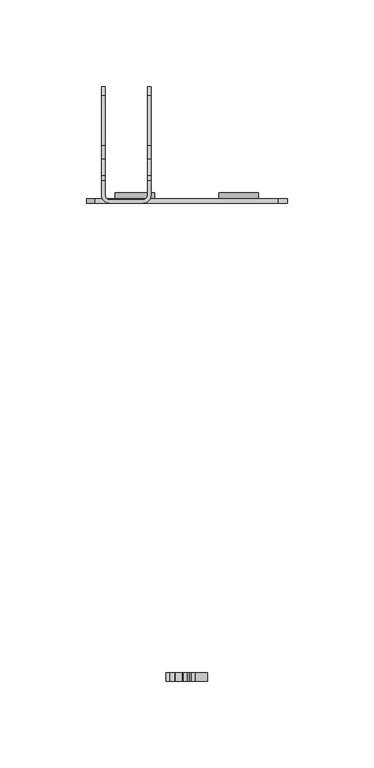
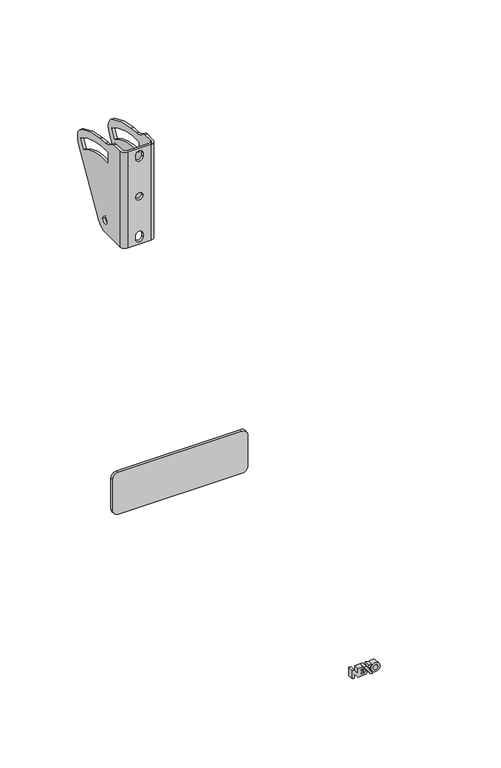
"""IFC4 building model written with IfcOpenShell, lengths in millimetres: proxy geometry, ePS10-WM02-WVM : ePS10-WM02-WVM."""

from ifc_helpers import new_model, si_unit, point, frame, frame_2d, origin, place, context, project, spatial, polyline, circle_curve, trimmed, segment, composite_curve, outline, extrude, source, transform, mapped, element, save
from ifc_brep_helpers import plane_surface, cylinder_surface, revolved_surface, advanced_brep


def generic_models_befa25e3(model_context):
    return source(origin(), model_context, "Body", "SolidModel", [
        advanced_brep(
        [(14.25, -87.7767512, 46.1064927), (12.25, -87.7767512, 46.1064927), (12.25, -90.3716849, 47.0), (14.25, -90.3902878, 47.0), (-12.25, -87.7767512, 46.1064927), (-14.25, -87.7767512, 46.1064927), (-14.25, -90.3716849, 47.0), (-12.25, -90.3902878, 47.0), (14.25, -78.1254974, 41.1889332), (12.25, -78.1254974, 41.1889332), (-12.25, -78.1254974, 41.1889332), (-14.25, -78.1254974, 41.1889332), (14.25, -70.2644375, 40.7606486), (12.25, -70.2644375, 40.7606486), (-12.25, -70.2644375, 40.7606486), (-14.25, -70.2644375, 40.7606486), (14.25, -41.518081, 31.4203912), (12.25, -41.518081, 31.4203912), (-12.25, -41.518081, 31.4203912), (-14.25, -41.518081, 31.4203912), (14.25, -36.3035006, 23.4663297), (12.25, -36.3035006, 23.4663297), (-12.25, -36.3035006, 23.4663297), (-14.25, -36.3035006, 23.4663297), (14.25, -37.6729327, 17.0148555), (12.25, -37.6729327, 17.0148555), (12.25, -36.3035006, 21.1548402), (14.25, -36.3035006, 21.1548402), (-12.25, -37.6729327, 17.0148555), (-14.25, -37.6729327, 17.0148555), (-14.25, -36.3035006, 21.1548402), (-12.25, -36.3035006, 21.1548402), (14.25, -67.9331802, -34.7955433), (12.25, -67.9331802, -34.7955433), (-12.25, -67.9331802, -34.7955433), (-14.25, -67.9331802, -34.7955433), (14.25, -77.0, -40.0), (12.25, -77.0, -40.0), (-12.25, -77.0, -40.0), (-14.25, -77.0, -40.0), (12.25, -80.0, -29.5), (14.25, -80.0, -29.5), (14.25, -74.0, -29.5), (12.25, -74.0, -29.5), (-14.25, -80.0, -29.5), (-12.25, -80.0, -29.5), (-12.25, -74.0, -29.5), (-14.25, -74.0, -29.5), (-14.25, -99.0, 47.0), (-9.75, -103.5, 47.0), (9.75, -103.5, 47.0), (14.25, -99.0, 47.0), (12.25, -99.0, 47.0), (9.75, -101.5, 47.0), (-9.75, -101.5, 47.0), (-12.25, -99.0, 47.0), (-12.25, -99.0, -40.0), (-9.75, -101.5, -40.0), (9.75, -101.5, -40.0), (12.25, -99.0, -40.0), (14.25, -99.0, -40.0), (9.75, -103.5, -40.0), (-9.75, -103.5, -40.0), (-14.25, -99.0, -40.0), (-3.1, -103.5, 41.6), (3.1, -103.5, 41.6), (3.1, -103.5, 38.5), (-3.1, -103.5, 38.5), (3.1, -103.5, -31.4906202), (3.1, -103.5, -34.5906202), (-3.1, -103.5, -34.5906202), (-3.1, -103.5, -31.4906202), (3.1, -103.5, 3.4898915), (-3.1, -103.5, 3.4898915), (14.25, -36.2397525, 22.278058), (14.25, -41.2927077, 23.7144233), (14.25, -45.8031363, 15.9021317), (14.25, -81.0, 25.3556682), (14.25, -81.0, 34.55), (12.25, -36.3035006, 22.278058), (12.25, -45.8031363, 15.9021317), (12.25, -41.2927077, 23.7144233), (12.25, -81.0, 34.55), (12.25, -81.0, 25.3556682), (3.1, -101.5, 41.6), (-3.1, -101.5, 41.6), (-3.1, -101.5, 38.5), (3.1, -101.5, 38.5), (3.1, -101.5, -34.5906202), (3.1, -101.5, -31.4906202), (-3.1, -101.5, -31.4906202), (-3.1, -101.5, -34.5906202), (-3.1, -101.5, 3.4898915), (3.1, -101.5, 3.4898915), (-12.25, -36.2397525, 22.278058), (-12.25, -41.2927077, 23.7144233), (-12.25, -45.8031363, 15.9021317), (-12.25, -81.0, 25.3556682), (-12.25, -81.0, 34.55), (-14.25, -36.3035006, 22.278058), (-14.25, -45.8031363, 15.9021317), (-14.25, -41.2927077, 23.7144233), (-14.25, -81.0, 34.55), (-14.25, -81.0, 25.3556682)],
        [
            (0, 1),
            (1, 2, circle_curve(frame((12.25, -90.3809864, 42.7581156), z_axis=(1.0, 0.0, 0.0), x_axis=(0.0, 1.0, 0.0)), 4.2418946)),
            (2, 3),
            (3, 0, circle_curve(frame((14.25, -90.3809864, 42.7581156), z_axis=(-1.0, 0.0, 0.0), x_axis=(0.0, 1.0, 0.0)), 4.2418946)),
            (4, 5),
            (5, 6, circle_curve(frame((-14.25, -90.3809864, 42.7581156), z_axis=(1.0, 0.0, 0.0), x_axis=(0.0, 1.0, 0.0)), 4.2418946)),
            (6, 7),
            (7, 4, circle_curve(frame((-12.25, -90.3809864, 42.7581156), z_axis=(-1.0, 0.0, 0.0), x_axis=(0.0, 1.0, 0.0)), 4.2418946)),
            (0, 8, circle_curve(frame((14.25, -76.3075404, 56.6864806), z_axis=(1.0, 0.0, 0.0), x_axis=(0.0, 1.0, 0.0)), 15.6038118)),
            (8, 9),
            (9, 1, circle_curve(frame((12.25, -76.3075404, 56.6864806), z_axis=(-1.0, 0.0, 0.0), x_axis=(0.0, 1.0, 0.0)), 15.6038118)),
            (4, 10, circle_curve(frame((-12.25, -76.3075404, 56.6864806), z_axis=(1.0, 0.0, 0.0), x_axis=(0.0, 1.0, 0.0)), 15.6038118)),
            (10, 11),
            (11, 5, circle_curve(frame((-14.25, -76.3075404, 56.6864806), z_axis=(-1.0, 0.0, 0.0), x_axis=(0.0, 1.0, 0.0)), 15.6038118)),
            (8, 12),
            (12, 13),
            (13, 9),
            (10, 14),
            (14, 15),
            (15, 11),
            (12, 16, circle_curve(frame((14.25, -78.2021031, -32.5751969), z_axis=(-1.0, 0.0, 0.0), x_axis=(0.0, 1.0, 0.0)), 73.7641699)),
            (16, 17),
            (17, 13, circle_curve(frame((12.25, -78.2021031, -32.5751969), z_axis=(1.0, 0.0, 0.0), x_axis=(0.0, 1.0, 0.0)), 73.7641699)),
            (14, 18, circle_curve(frame((-12.25, -78.2021031, -32.5751969), z_axis=(-1.0, 0.0, 0.0), x_axis=(0.0, 1.0, 0.0)), 73.7641699)),
            (18, 19),
            (19, 15, circle_curve(frame((-14.25, -78.2021031, -32.5751969), z_axis=(1.0, 0.0, 0.0), x_axis=(0.0, 1.0, 0.0)), 73.7641699)),
            (16, 20, circle_curve(frame((14.25, -46.7400712, 22.3105849), z_axis=(-1.0, 0.0, 0.0), x_axis=(0.0, 1.0, 0.0)), 10.5003691)),
            (20, 21),
            (21, 17, circle_curve(frame((12.25, -46.7400712, 22.3105849), z_axis=(1.0, 0.0, 0.0), x_axis=(0.0, 1.0, 0.0)), 10.5003691)),
            (18, 22, circle_curve(frame((-12.25, -46.7400712, 22.3105849), z_axis=(-1.0, 0.0, 0.0), x_axis=(0.0, 1.0, 0.0)), 10.5003691)),
            (22, 23),
            (23, 19, circle_curve(frame((-14.25, -46.7400712, 22.3105849), z_axis=(1.0, 0.0, 0.0), x_axis=(0.0, 1.0, 0.0)), 10.5003691)),
            (24, 25),
            (25, 26, circle_curve(frame((12.25, -46.7400712, 22.3105849), z_axis=(1.0, 0.0, 0.0), x_axis=(0.0, 1.0, 0.0)), 10.5003691)),
            (26, 27),
            (27, 24, circle_curve(frame((14.25, -46.7400712, 22.3105849), z_axis=(-1.0, 0.0, 0.0), x_axis=(0.0, 1.0, 0.0)), 10.5003691)),
            (28, 29),
            (29, 30, circle_curve(frame((-14.25, -46.7400712, 22.3105849), z_axis=(1.0, 0.0, 0.0), x_axis=(0.0, 1.0, 0.0)), 10.5003691)),
            (30, 31),
            (31, 28, circle_curve(frame((-12.25, -46.7400712, 22.3105849), z_axis=(-1.0, 0.0, 0.0), x_axis=(0.0, 1.0, 0.0)), 10.5003691)),
            (24, 32),
            (32, 33),
            (33, 25),
            (28, 34),
            (34, 35),
            (35, 29),
            (32, 36, circle_curve(frame((14.25, -77.0, -29.5), z_axis=(-1.0, 0.0, 0.0), x_axis=(0.0, 1.0, 0.0)), 10.5)),
            (36, 37),
            (37, 33, circle_curve(frame((12.25, -77.0, -29.5), z_axis=(1.0, 0.0, 0.0), x_axis=(0.0, 1.0, 0.0)), 10.5)),
            (34, 38, circle_curve(frame((-12.25, -77.0, -29.5), z_axis=(-1.0, 0.0, 0.0), x_axis=(0.0, 1.0, 0.0)), 10.5)),
            (38, 39),
            (39, 35, circle_curve(frame((-14.25, -77.0, -29.5), z_axis=(1.0, 0.0, 0.0), x_axis=(0.0, 1.0, 0.0)), 10.5)),
            (40, 41),
            (41, 42, circle_curve(frame((14.25, -77.0, -29.5), z_axis=(1.0, 0.0, 0.0), x_axis=(0.0, 1.0, 0.0)), 3.0)),
            (42, 43),
            (43, 40, circle_curve(frame((12.25, -77.0, -29.5), z_axis=(-1.0, 0.0, 0.0), x_axis=(0.0, 1.0, 0.0)), 3.0)),
            (44, 45),
            (45, 46, circle_curve(frame((-12.25, -77.0, -29.5), z_axis=(1.0, 0.0, 0.0), x_axis=(0.0, 1.0, 0.0)), 3.0)),
            (46, 47),
            (47, 44, circle_curve(frame((-14.25, -77.0, -29.5), z_axis=(-1.0, 0.0, 0.0), x_axis=(0.0, 1.0, 0.0)), 3.0)),
            (40, 43, circle_curve(frame((12.25, -77.0, -29.5), z_axis=(-1.0, 0.0, 0.0), x_axis=(0.0, 1.0, 0.0)), 3.0)),
            (42, 41, circle_curve(frame((14.25, -77.0, -29.5), z_axis=(1.0, 0.0, 0.0), x_axis=(0.0, 1.0, 0.0)), 3.0)),
            (44, 47, circle_curve(frame((-14.25, -77.0, -29.5), z_axis=(-1.0, 0.0, 0.0), x_axis=(0.0, 1.0, 0.0)), 3.0)),
            (46, 45, circle_curve(frame((-12.25, -77.0, -29.5), z_axis=(1.0, 0.0, 0.0), x_axis=(0.0, 1.0, 0.0)), 3.0)),
            (48, 49, circle_curve(frame((-9.75, -99.0, 47.0), z_axis=(0.0, 0.0, 1.0), x_axis=(1.0, 0.0, 0.0)), 4.5)),
            (49, 50),
            (50, 51, circle_curve(frame((9.75, -99.0, 47.0), z_axis=(0.0, 0.0, 1.0), x_axis=(1.0, 0.0, 0.0)), 4.5)),
            (51, 3),
            (2, 52),
            (52, 53, circle_curve(frame((9.75, -99.0, 47.0), z_axis=(0.0, 0.0, -1.0), x_axis=(1.0, 0.0, 0.0)), 2.5)),
            (53, 54),
            (54, 55, circle_curve(frame((-9.75, -99.0, 47.0), z_axis=(0.0, 0.0, -1.0), x_axis=(1.0, 0.0, 0.0)), 2.5)),
            (55, 7),
            (6, 48),
            (56, 57, circle_curve(frame((-9.75, -99.0, -40.0), z_axis=(0.0, 0.0, 1.0), x_axis=(1.0, 0.0, 0.0)), 2.5)),
            (57, 58),
            (58, 59, circle_curve(frame((9.75, -99.0, -40.0), z_axis=(0.0, 0.0, 1.0), x_axis=(1.0, 0.0, 0.0)), 2.5)),
            (59, 37),
            (36, 60),
            (60, 61, circle_curve(frame((9.75, -99.0, -40.0), z_axis=(0.0, 0.0, -1.0), x_axis=(1.0, 0.0, 0.0)), 4.5)),
            (61, 62),
            (62, 63, circle_curve(frame((-9.75, -99.0, -40.0), z_axis=(0.0, 0.0, -1.0), x_axis=(1.0, 0.0, 0.0)), 4.5)),
            (63, 39),
            (38, 56),
            (49, 62),
            (61, 50),
            (64, 65, circle_curve(frame((0.0, -103.5, 41.6), z_axis=(0.0, 1.0, 0.0), x_axis=(1.0, 0.0, 0.0)), 3.1)),
            (65, 66),
            (66, 67, circle_curve(frame((0.0, -103.5, 38.5), z_axis=(0.0, 1.0, 0.0), x_axis=(1.0, 0.0, 0.0)), 3.1)),
            (67, 64),
            (68, 69),
            (69, 70, circle_curve(frame((0.0, -103.5, -34.5906202), z_axis=(0.0, 1.0, 0.0), x_axis=(1.0, 0.0, 0.0)), 3.1)),
            (70, 71),
            (71, 68, circle_curve(frame((0.0, -103.5, -31.4906202), z_axis=(0.0, 1.0, 0.0), x_axis=(1.0, 0.0, 0.0)), 3.1)),
            (72, 73, circle_curve(frame((0.0, -103.5, 3.4898915), z_axis=(0.0, 1.0, 0.0), x_axis=(1.0, 0.0, 0.0)), 3.1)),
            (73, 72, circle_curve(frame((0.0, -103.5, 3.4898915), z_axis=(0.0, 1.0, 0.0), x_axis=(1.0, 0.0, 0.0)), 3.1)),
            (51, 60),
            (27, 74),
            (74, 20),
            (75, 76),
            (76, 77, circle_curve(frame((14.25, -77.0093909, -30.0349635), z_axis=(1.0, 0.0, 0.0), x_axis=(0.0, 1.0, 0.0)), 55.5341971)),
            (77, 78),
            (78, 75, circle_curve(frame((14.25, -77.6772538, -31.4457619), z_axis=(-1.0, 0.0, 0.0), x_axis=(0.0, 1.0, 0.0)), 66.0793555)),
            (26, 79),
            (79, 21),
            (59, 52),
            (80, 81),
            (81, 82, circle_curve(frame((12.25, -77.6772538, -31.4457619), z_axis=(1.0, 0.0, 0.0), x_axis=(0.0, 1.0, 0.0)), 66.0793555)),
            (82, 83),
            (83, 80, circle_curve(frame((12.25, -77.0093909, -30.0349635), z_axis=(-1.0, 0.0, 0.0), x_axis=(0.0, 1.0, 0.0)), 55.5341971)),
            (53, 58),
            (57, 54),
            (84, 85, circle_curve(frame((0.0, -101.5, 41.6), z_axis=(0.0, -1.0, 0.0), x_axis=(1.0, 0.0, 0.0)), 3.1)),
            (85, 86),
            (86, 87, circle_curve(frame((0.0, -101.5, 38.5), z_axis=(0.0, -1.0, 0.0), x_axis=(1.0, 0.0, 0.0)), 3.1)),
            (87, 84),
            (88, 89),
            (89, 90, circle_curve(frame((0.0, -101.5, -31.4906202), z_axis=(0.0, -1.0, 0.0), x_axis=(1.0, 0.0, 0.0)), 3.1)),
            (90, 91),
            (91, 88, circle_curve(frame((0.0, -101.5, -34.5906202), z_axis=(0.0, -1.0, 0.0), x_axis=(1.0, 0.0, 0.0)), 3.1)),
            (92, 93, circle_curve(frame((0.0, -101.5, 3.4898915), z_axis=(0.0, -1.0, 0.0), x_axis=(1.0, 0.0, 0.0)), 3.1)),
            (93, 92, circle_curve(frame((0.0, -101.5, 3.4898915), z_axis=(0.0, -1.0, 0.0), x_axis=(1.0, 0.0, 0.0)), 3.1)),
            (55, 56),
            (31, 94),
            (94, 22),
            (95, 96),
            (96, 97, circle_curve(frame((-12.25, -77.0093909, -30.0349635), z_axis=(1.0, 0.0, 0.0), x_axis=(0.0, 1.0, 0.0)), 55.5341971)),
            (97, 98),
            (98, 95, circle_curve(frame((-12.25, -77.6772538, -31.4457619), z_axis=(-1.0, 0.0, 0.0), x_axis=(0.0, 1.0, 0.0)), 66.0793555)),
            (30, 99),
            (99, 23),
            (63, 48),
            (100, 101),
            (101, 102, circle_curve(frame((-14.25, -77.6772538, -31.4457619), z_axis=(1.0, 0.0, 0.0), x_axis=(0.0, 1.0, 0.0)), 66.0793555)),
            (102, 103),
            (103, 100, circle_curve(frame((-14.25, -77.0093909, -30.0349635), z_axis=(-1.0, 0.0, 0.0), x_axis=(0.0, 1.0, 0.0)), 55.5341971)),
            (84, 65),
            (64, 85),
            (67, 86),
            (66, 87),
            (88, 69),
            (68, 89),
            (71, 90),
            (70, 91),
            (92, 73),
            (72, 93),
            (80, 76),
            (75, 81),
            (100, 96),
            (95, 101),
            (78, 82),
            (98, 102),
            (77, 83),
            (97, 103),
        ],
        [
            cylinder_surface(frame((-20.0, -90.3809864, 42.7581156), z_axis=(-1.0, 0.0, 0.0), x_axis=(0.0, 1.0, 0.0)), 4.2418946),
            revolved_surface(polyline([(14.25, -60.70372859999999, 56.6864806), (12.25, -60.70372859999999, 56.6864806)]), (-20.0, -76.3075404, 56.6864806), (1.0, 0.0, 0.0)),
            revolved_surface(polyline([(-12.25, -60.70372859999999, 56.6864806), (-14.25, -60.70372859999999, 56.6864806)]), (-20.0, -76.3075404, 56.6864806), (1.0, 0.0, 0.0)),
            plane_surface(frame((20.0, -78.1254974, 41.1889332), z_axis=(0.0, 0.05440111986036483, 0.9985191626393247), x_axis=(-1.0, 0.0, 0.0))),
            cylinder_surface(frame((-20.0, -78.2021031, -32.5751969), z_axis=(-1.0, 0.0, 0.0), x_axis=(0.0, 1.0, 0.0)), 73.7641699),
            cylinder_surface(frame((-20.0, -46.7400712, 22.3105849), z_axis=(-1.0, 0.0, 0.0), x_axis=(0.0, 1.0, 0.0)), 10.5003691),
            plane_surface(frame((20.0, -37.6729327, 17.0148555), z_axis=(0.0, 0.8635066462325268, -0.504337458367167), x_axis=(-1.0, 0.0, 0.0))),
            cylinder_surface(frame((-20.0, -77.0, -29.5), z_axis=(-1.0, 0.0, 0.0), x_axis=(0.0, 1.0, 0.0)), 10.5),
            revolved_surface(polyline([(14.25, -74.0, -29.5), (12.25, -74.0, -29.5)]), (0.0, -77.0, -29.5), (1.0, 0.0, 0.0)),
            revolved_surface(polyline([(-12.25, -74.0, -29.5), (-14.25, -74.0, -29.5)]), (0.0, -77.0, -29.5), (1.0, 0.0, 0.0)),
            plane_surface(frame((-5.25, -99.0, 47.0), z_axis=(0.0, 0.0, 1.0), x_axis=(0.0, 1.0, 0.0))),
            plane_surface(frame((-5.25, -99.0, -40.0), z_axis=(0.0, 0.0, -1.0), x_axis=(0.0, -1.0, 0.0))),
            plane_surface(frame((-9.75, -103.5, 47.0), z_axis=(0.0, -1.0, 0.0), x_axis=(0.0, 0.0, -1.0))),
            plane_surface(frame((14.25, -99.0, 47.0), z_axis=(1.0, 0.0, 0.0), x_axis=(0.0, 0.0, -1.0))),
            plane_surface(frame((14.25, -36.3035006, 47.0), z_axis=(0.0, 1.0, 0.0), x_axis=(0.0, 0.0, -1.0))),
            plane_surface(frame((12.25, -36.3035006, 47.0), z_axis=(-1.0, 0.0, 0.0), x_axis=(0.0, 0.0, -1.0))),
            plane_surface(frame((9.75, -101.5, 47.0), z_axis=(0.0, 1.0, 0.0), x_axis=(0.0, 0.0, -1.0))),
            plane_surface(frame((-12.25, -99.0, 47.0), z_axis=(1.0, 0.0, 0.0), x_axis=(0.0, 0.0, -1.0))),
            plane_surface(frame((-12.25, -36.3035006, 47.0), z_axis=(0.0, 1.0, 0.0), x_axis=(0.0, 0.0, -1.0))),
            plane_surface(frame((-14.25, -36.3035006, 47.0), z_axis=(-1.0, 0.0, 0.0), x_axis=(0.0, 0.0, -1.0))),
            revolved_surface(polyline([(3.1, -103.5, 41.6), (3.1, -101.5, 41.6)]), (0.0, 0.0, 41.6), (0.0, -1.0, 0.0)),
            plane_surface(frame((-3.1, -103.5, 41.6), z_axis=(1.0, 0.0, 0.0), x_axis=(0.0, 1.0, 0.0))),
            revolved_surface(polyline([(3.1, -103.5, 38.5), (3.1, -101.5, 38.5)]), (0.0, 0.0, 38.5), (0.0, -1.0, 0.0)),
            plane_surface(frame((3.1, -103.5, 38.5), z_axis=(-1.0, 0.0, 0.0), x_axis=(0.0, 1.0, 0.0))),
            plane_surface(frame((3.1, -103.5, -34.5906202), z_axis=(-1.0, 0.0, 0.0), x_axis=(0.0, 1.0, 0.0))),
            revolved_surface(polyline([(3.1, -103.5, -31.4906202), (3.1, -101.5, -31.4906202)]), (0.0, 0.0, -31.4906202), (0.0, -1.0, 0.0)),
            plane_surface(frame((-3.1, -103.5, -31.4906202), z_axis=(1.0, 0.0, 0.0), x_axis=(0.0, 1.0, 0.0))),
            revolved_surface(polyline([(3.1, -103.5, -34.5906202), (3.1, -101.5, -34.5906202)]), (0.0, 0.0, -34.5906202), (0.0, -1.0, 0.0)),
            revolved_surface(polyline([(3.1, -103.5, 3.4898915), (3.1, -101.5, 3.4898915)]), (0.0, 0.0, 3.4898915), (0.0, -1.0, 0.0)),
            cylinder_surface(frame((-9.75, -99.0, -40.0), z_axis=(0.0, 0.0, 1.0), x_axis=(1.0, 0.0, 0.0)), 4.5),
            cylinder_surface(frame((9.75, -99.0, -40.0), z_axis=(0.0, 0.0, 1.0), x_axis=(1.0, 0.0, 0.0)), 4.5),
            revolved_surface(polyline([(12.25, -99.0, -40.0), (12.25, -99.0, 47.0)]), (9.75, -99.0, -40.0), (0.0, 0.0, -1.0)),
            revolved_surface(polyline([(-7.25, -99.0, -40.0), (-7.25, -99.0, 47.0)]), (-9.75, -99.0, -40.0), (0.0, 0.0, -1.0)),
            plane_surface(frame((20.0, -45.8031363, 15.9021317), z_axis=(0.0, -0.8660254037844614, 0.499999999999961), x_axis=(-1.0, 0.0, 0.0))),
            revolved_surface(polyline([(14.25, -11.597898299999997, -31.4457619), (12.25, -11.597898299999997, -31.4457619)]), (0.0, -77.6772538, -31.4457619), (1.0, 0.0, 0.0)),
            revolved_surface(polyline([(-12.25, -11.597898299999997, -31.4457619), (-14.25, -11.597898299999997, -31.4457619)]), (0.0, -77.6772538, -31.4457619), (1.0, 0.0, 0.0)),
            plane_surface(frame((20.0, -81.0, 34.55), z_axis=(0.0, 1.0, 0.0), x_axis=(-1.0, 0.0, 0.0))),
            cylinder_surface(frame((0.0, -77.0093909, -30.0349635), z_axis=(-1.0, 0.0, 0.0), x_axis=(0.0, 1.0, 0.0)), 55.5341971),
        ],
        [
            (0, [[1, 2, 3, 4]]),
            (0, [[5, 6, 7, 8]]),
            (1, [[-1, 9, 10, 11]]),
            (2, [[-5, 12, 13, 14]]),
            (3, [[-10, 15, 16, 17]]),
            (3, [[-13, 18, 19, 20]]),
            (4, [[-16, 21, 22, 23]]),
            (4, [[-19, 24, 25, 26]]),
            (5, [[-22, 27, 28, 29]]),
            (5, [[-25, 30, 31, 32]]),
            (5, [[33, 34, 35, 36]]),
            (5, [[37, 38, 39, 40]]),
            (6, [[-33, 41, 42, 43]]),
            (6, [[-37, 44, 45, 46]]),
            (7, [[-42, 47, 48, 49]]),
            (7, [[-45, 50, 51, 52]]),
            (8, [[53, 54, 55, 56]]),
            (9, [[57, 58, 59, 60]]),
            (8, [[-53, 61, -55, 62]]),
            (9, [[-57, 63, -59, 64]]),
            (10, [[65, 66, 67, 68, -3, 69, 70, 71, 72, 73, -7, 74]]),
            (11, [[75, 76, 77, 78, -48, 79, 80, 81, 82, 83, -51, 84]]),
            (12, [[-66, 85, -81, 86], [87, 88, 89, 90], [91, 92, 93, 94], [95, 96]]),
            (13, [[97, -79, -47, -41, -36, 98, 99, -27, -21, -15, -9, -4, -68], [-54, -62], [100, 101, 102, 103]]),
            (14, [[-98, -35, 104, 105, -28, -99]]),
            (15, [[106, -69, -2, -11, -17, -23, -29, -105, -104, -34, -43, -49, -78], [-56, -61], [107, 108, 109, 110]]),
            (16, [[-71, 111, -76, 112], [113, 114, 115, 116], [117, 118, 119, 120], [121, 122]]),
            (17, [[123, -84, -50, -44, -40, 124, 125, -30, -24, -18, -12, -8, -73], [-58, -64], [126, 127, 128, 129]]),
            (18, [[-124, -39, 130, 131, -31, -125]]),
            (19, [[132, -74, -6, -14, -20, -26, -32, -131, -130, -38, -46, -52, -83], [-60, -63], [133, 134, 135, 136]]),
            (20, [[137, -87, 138, -113]]),
            (21, [[-138, -90, 139, -114]]),
            (22, [[-139, -89, 140, -115]]),
            (23, [[-137, -116, -140, -88]]),
            (24, [[141, -91, 142, -117]]),
            (25, [[-142, -94, 143, -118]]),
            (26, [[-143, -93, 144, -119]]),
            (27, [[-141, -120, -144, -92]]),
            (28, [[145, -95, 146, -121]]),
            (28, [[-145, -122, -146, -96]]),
            (29, [[-65, -132, -82, -85]]),
            (30, [[-67, -86, -80, -97]]),
            (31, [[-70, -106, -77, -111]]),
            (32, [[-72, -112, -75, -123]]),
            (33, [[147, -100, 148, -107]]),
            (33, [[149, -126, 150, -133]]),
            (34, [[-148, -103, 151, -108]]),
            (35, [[-150, -129, 152, -134]]),
            (36, [[-151, -102, 153, -109]]),
            (36, [[-152, -128, 154, -135]]),
            (37, [[-147, -110, -153, -101]]),
            (37, [[-149, -136, -154, -127]]),
        ],
    ),
        extrude(outline(composite_curve([segment(trimmed(circle_curve(frame_2d((-271.2638511, 43.0749632)), 3.9406238), [point((-271.2638511, 39.1343393))], [point((-271.2638511, 47.015587))], False, "CARTESIAN"), True, "CONTINUOUS"), segment(trimmed(circle_curve(frame_2d((-271.2638511, 43.0749632)), 3.9406238), [point((-271.2638511, 47.015587))], [point((-271.2638511, 39.1343393))], False, "CARTESIAN"), True, "CONTINUOUS")], self_intersect=False), holes=[composite_curve([segment(trimmed(circle_curve(frame_2d((-271.2638511, 43.0749632)), 2.0681078), [point((-271.2638511, 41.0068554))], [point((-271.2638511, 45.1430709))], True, "CARTESIAN"), True, "CONTINUOUS"), segment(trimmed(circle_curve(frame_2d((-271.2638511, 43.0749632)), 2.0681078), [point((-271.2638511, 45.1430709))], [point((-271.2638511, 41.0068554))], True, "CARTESIAN"), True, "CONTINUOUS")], self_intersect=False)]), frame((0.0, -379.5947355, 0.0), z_axis=(0.0, 1.0, 0.0), x_axis=(0.0, 0.0, 1.0)), (0.0, 0.0, 1.0), 5.0),
        extrude(outline(polyline([(-267.5930131, 23.0635897), (-274.8727802, 23.0635897), (-274.8727802, 24.9559569), (-270.7074499, 24.9559569), (-274.8727802, 27.7310539), (-274.8727802, 34.5819636), (-272.997809, 35.9005359), (-271.3982756, 34.8371588), (-273.2701157, 33.4676162), (-273.2701157, 30.4339869), (-272.0158284, 30.4339869), (-272.0158284, 32.7170997), (-270.4130981, 32.7170997), (-270.4130981, 30.4339869), (-269.1965949, 30.4339869), (-269.1965949, 32.8410616), (-268.3965949, 32.8410616), (-267.5938646, 32.3074028), (-267.5938646, 28.0390268), (-272.0439207, 28.0293352), (-267.5930131, 25.090069), (-267.5930131, 23.0635897)])), frame((0.0, -379.5947355, 0.0), z_axis=(0.0, 1.0, 0.0), x_axis=(0.0, 0.0, 1.0)), (0.0, 0.0, 1.0), 5.0),
        extrude(outline(polyline([(-267.5930131, 32.9487179), (-275.83396, 38.4273371), (-275.83396, 40.6205398), (-267.5930131, 35.1419206), (-267.5930131, 32.9487179)])), frame((0.0, -379.5947355, 0.0), z_axis=(0.0, 1.0, 0.0), x_axis=(0.0, 0.0, 1.0)), (0.0, 0.0, 1.0), 5.0),
        extrude(outline(polyline([(-267.5930131, 39.689352), (-267.5930131, 37.3625614), (-268.8609701, 36.6147671), (-270.491864, 37.6989929), (-267.5930131, 39.689352)])), frame((0.0, -379.5947355, 0.0), z_axis=(0.0, 1.0, 0.0), x_axis=(0.0, 0.0, 1.0)), (0.0, 0.0, 1.0), 5.0),
        extrude(outline(composite_curve([segment(trimmed(circle_curve(frame_2d((-259.53396, 4.9999424)), 11.4515227), [point((-259.53396, 16.4514651))], [point((-259.53396, -6.4515802))], False, "CARTESIAN"), True, "CONTINUOUS"), segment(trimmed(circle_curve(frame_2d((-259.53396, 4.9999424)), 11.4515227), [point((-259.53396, -6.4515802))], [point((-259.53396, 16.4514651))], False, "CARTESIAN"), True, "CONTINUOUS")], self_intersect=False), holes=[composite_curve([segment(trimmed(circle_curve(frame_2d((-259.53396, 4.9999424)), 5.0), [point((-259.53396, 9.9999424))], [point((-259.53396, -5.76e-05))], True, "CARTESIAN"), True, "CONTINUOUS"), segment(trimmed(circle_curve(frame_2d((-259.53396, 4.9999424)), 5.0), [point((-259.53396, -5.76e-05))], [point((-259.53396, 9.9999424))], True, "CARTESIAN"), True, "CONTINUOUS")], self_intersect=False)]), frame((0.0, -101.0, 0.0), z_axis=(0.0, 1.0, 0.0), x_axis=(0.0, 0.0, 1.0)), (0.0, 0.0, 1.0), 3.4052646),
        extrude(outline(composite_curve([segment(trimmed(circle_curve(frame_2d((-259.53396, 64.9999424)), 11.4515227), [point((-259.53396, 76.4514651))], [point((-259.53396, 53.5484198))], False, "CARTESIAN"), True, "CONTINUOUS"), segment(trimmed(circle_curve(frame_2d((-259.53396, 64.9999424)), 11.4515227), [point((-259.53396, 53.5484198))], [point((-259.53396, 76.4514651))], False, "CARTESIAN"), True, "CONTINUOUS")], self_intersect=False), holes=[composite_curve([segment(trimmed(circle_curve(frame_2d((-259.53396, 64.9999424)), 5.0), [point((-259.53396, 69.9999424))], [point((-259.53396, 59.9999424))], True, "CARTESIAN"), True, "CONTINUOUS"), segment(trimmed(circle_curve(frame_2d((-259.53396, 64.9999424)), 5.0), [point((-259.53396, 59.9999424))], [point((-259.53396, 69.9999424))], True, "CARTESIAN"), True, "CONTINUOUS")], self_intersect=False)]), frame((0.0, -101.0, 0.0), z_axis=(0.0, 1.0, 0.0), x_axis=(0.0, 0.0, 1.0)), (0.0, 0.0, 1.0), 3.4052646),
        extrude(outline(composite_curve([segment(polyline([(-240.53396, 87.9999424), (-240.53396, -18.0000576)]), True, "CONTINUOUS"), segment(trimmed(circle_curve(frame_2d((-245.53396, -18.0000576)), 5.0), [point((-240.53396, -18.0000576))], [point((-245.53396, -23.0000576))], False, "CARTESIAN"), True, "CONTINUOUS"), segment(polyline([(-245.53396, -23.0000576), (-273.53396, -23.0000576)]), True, "CONTINUOUS"), segment(trimmed(circle_curve(frame_2d((-273.53396, -18.0000576)), 5.0), [point((-273.53396, -23.0000576))], [point((-278.53396, -18.0000576))], False, "CARTESIAN"), True, "CONTINUOUS"), segment(polyline([(-278.53396, -18.0000576), (-278.53396, 87.9999424)]), True, "CONTINUOUS"), segment(trimmed(circle_curve(frame_2d((-273.53396, 87.9999424)), 5.0), [point((-278.53396, 87.9999424))], [point((-273.53396, 92.9999424))], False, "CARTESIAN"), True, "CONTINUOUS"), segment(polyline([(-273.53396, 92.9999424), (-245.53396, 92.9999424)]), True, "CONTINUOUS"), segment(trimmed(circle_curve(frame_2d((-245.53396, 87.9999424)), 5.0), [point((-245.53396, 92.9999424))], [point((-240.53396, 87.9999424))], False, "CARTESIAN"), True, "CONTINUOUS")], self_intersect=False)), frame((0.0, -103.5, 0.0), z_axis=(0.0, 1.0, 0.0), x_axis=(0.0, 0.0, 1.0)), (0.0, 0.0, 1.0), 2.5),
    ])


if __name__ == "__main__":
    model = new_model("IFC4")
    model_context = context("Model", 3, world=origin())
    ifc_project = project(units=[si_unit("LENGTHUNIT", "METRE", prefix="MILLI")], contexts=[model_context])
    site = spatial("IfcSite", under=ifc_project)
    building = spatial("IfcBuilding", under=site)
    placement = place(None, origin())
    generic_models_shape = generic_models_befa25e3(model_context)
    element("IfcBuildingElementProxy", 1, Name="ePS10-WM02-WVM : ePS10-WM02-WVM", ObjectType="ePS10-WM02-WVM : ePS10-WM02-WVM", at=placement, inside=building, context=model_context, shape_type="MappedRepresentation", body=[
        mapped(generic_models_shape, transform((0.0, 0.0, 0.0), x_axis=(1.0, 0.0, 0.0), y_axis=(0.0, 1.0, 0.0), z_axis=(0.0, 0.0, 1.0))),
    ])
    save(model, "model.ifc")
